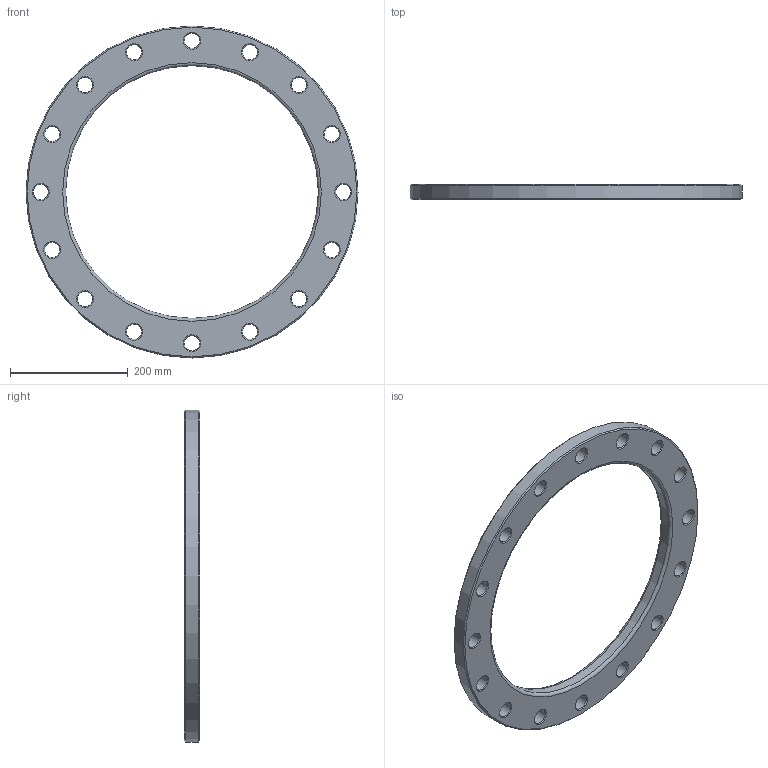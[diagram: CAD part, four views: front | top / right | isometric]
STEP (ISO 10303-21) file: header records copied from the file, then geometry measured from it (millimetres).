
FILE_DESCRIPTION(/* description */ ('Unknown'),/* implementation_level */ '2;1');
FILE_NAME(/* name */ 'FA400B',/* time_stamp */ '2022-07-21T15:41:13+02:00',/* author */ ('Unknown'),/* organization */ ('Unknown'),/* preprocessor_version */ 'ST-DEVELOPER v18.102',/* originating_system */ 'Solid Edge',/* authorisation */ 'Unknown');
FILE_SCHEMA (('AUTOMOTIVE_DESIGN {1 0 10303 214 3 1 1}'));
Length unit declared in the file: millimetre
Products named in the file (1): FA400B
Bounding box: 565 x 26 x 565 mm (x, y, z)
Volume: 2497390 mm3; surface area: 297111.6 mm2
Topology: 1 solids, 1 shells, 56 faces, 174 edges, 120 vertices
Faces by surface type: cone 34, cylinder 18, plane 2, torus 2
Full cylindrical faces by diameter (mm): 26 x16, 430 x1, 565 x1
Entity records: 1382 total; most frequent: DIRECTION 258, CARTESIAN_POINT 201, ORIENTED_EDGE 144, EDGE_LOOP 144, FACE_BOUND 144, AXIS2_PLACEMENT_3D 129, EDGE_CURVE 72, VERTEX_POINT 72
